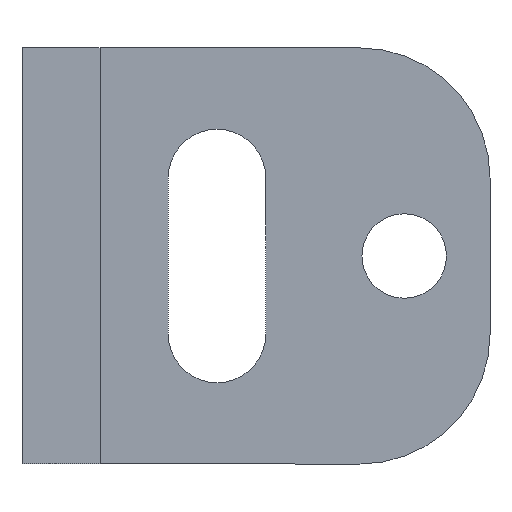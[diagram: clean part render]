
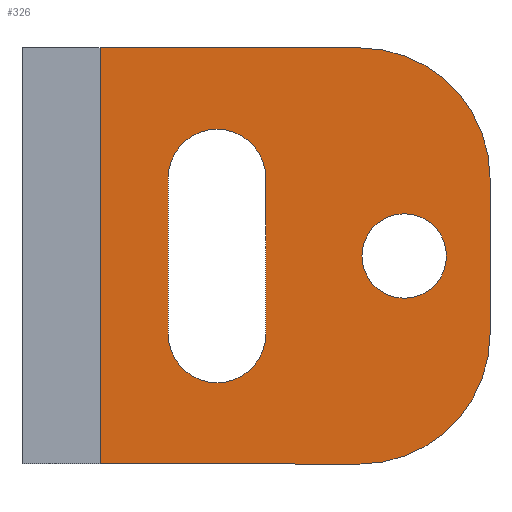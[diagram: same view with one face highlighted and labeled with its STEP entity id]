
A CAD part, left-side view. The second image highlights one B-rep face of the part: STEP entity #326.
In plain terms, the highlighted planar face has unit normal (-1, 0, 0).
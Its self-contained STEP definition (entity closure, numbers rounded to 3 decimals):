
#5 = CIRCLE ( 'NONE', #777, 10. ) ;
#41 = CIRCLE ( 'NONE', #962, 3.25 ) ;
#50 = CARTESIAN_POINT ( 'NONE',  ( -17., 0., -32. ) ) ;
#54 = DIRECTION ( 'NONE',  ( 0., 0., -1. ) ) ;
#58 = CARTESIAN_POINT ( 'NONE',  ( -17., -20., 0. ) ) ;
#71 = EDGE_CURVE ( 'NONE', #982, #602, #1298, .T. ) ;
#72 = DIRECTION ( 'NONE',  ( 0., 0., 1. ) ) ;
#92 = EDGE_CURVE ( 'NONE', #1504, #110, #212, .T. ) ;
#100 = EDGE_CURVE ( 'NONE', #110, #917, #343, .T. ) ;
#102 = CARTESIAN_POINT ( 'NONE',  ( -17., -23.4, -16. ) ) ;
#110 = VERTEX_POINT ( 'NONE', #397 ) ;
#113 = DIRECTION ( 'NONE',  ( 0., 0., 1. ) ) ;
#154 = VECTOR ( 'NONE', #1113, 1000. ) ;
#173 = CARTESIAN_POINT ( 'NONE',  ( -17., -30., -22. ) ) ;
#178 = DIRECTION ( 'NONE',  ( -1., 0., 0. ) ) ;
#182 = DIRECTION ( 'NONE',  ( 0., -1., 0. ) ) ;
#188 = FACE_BOUND ( 'NONE', #755, .T. ) ;
#193 = CARTESIAN_POINT ( 'NONE',  ( -17., -20., -22. ) ) ;
#194 = VERTEX_POINT ( 'NONE', #1364 ) ;
#207 = ORIENTED_EDGE ( 'NONE', *, *, #71, .F. ) ;
#212 = LINE ( 'NONE', #731, #1017 ) ;
#214 = EDGE_CURVE ( 'NONE', #838, #1055, #412, .T. ) ;
#271 = CARTESIAN_POINT ( 'NONE',  ( -17., -20., -32. ) ) ;
#292 = DIRECTION ( 'NONE',  ( -1., 0., 0. ) ) ;
#326 = ADVANCED_FACE ( 'NONE', ( #188, #1424, #1362 ), #1026, .T. ) ;
#343 = CIRCLE ( 'NONE', #950, 3.75 ) ;
#349 = CARTESIAN_POINT ( 'NONE',  ( -17., 0., -32. ) ) ;
#361 = CARTESIAN_POINT ( 'NONE',  ( -17., -20., -10. ) ) ;
#379 = ORIENTED_EDGE ( 'NONE', *, *, #100, .F. ) ;
#397 = CARTESIAN_POINT ( 'NONE',  ( -17., -5.25, -22. ) ) ;
#409 = VECTOR ( 'NONE', #901, 1000. ) ;
#412 = LINE ( 'NONE', #648, #1255 ) ;
#436 = ORIENTED_EDGE ( 'NONE', *, *, #1261, .T. ) ;
#461 = EDGE_CURVE ( 'NONE', #1003, #659, #41, .T. ) ;
#482 = DIRECTION ( 'NONE',  ( -1., 0., 0. ) ) ;
#487 = ORIENTED_EDGE ( 'NONE', *, *, #1497, .T. ) ;
#491 = CARTESIAN_POINT ( 'NONE',  ( -17., -12.75, -10. ) ) ;
#495 = CARTESIAN_POINT ( 'NONE',  ( -17., -12.75, -22. ) ) ;
#536 = ORIENTED_EDGE ( 'NONE', *, *, #537, .F. ) ;
#537 = EDGE_CURVE ( 'NONE', #602, #1504, #545, .T. ) ;
#545 = CIRCLE ( 'NONE', #1194, 3.75 ) ;
#586 = CIRCLE ( 'NONE', #1448, 3.75 ) ;
#602 = VERTEX_POINT ( 'NONE', #491 ) ;
#604 = LINE ( 'NONE', #58, #409 ) ;
#614 = ORIENTED_EDGE ( 'NONE', *, *, #991, .T. ) ;
#639 = EDGE_CURVE ( 'NONE', #917, #982, #586, .T. ) ;
#648 = CARTESIAN_POINT ( 'NONE',  ( -17., 0., 0. ) ) ;
#659 = VERTEX_POINT ( 'NONE', #1228 ) ;
#691 = VERTEX_POINT ( 'NONE', #1099 ) ;
#708 = AXIS2_PLACEMENT_3D ( 'NONE', #193, #1035, #1149 ) ;
#713 = DIRECTION ( 'NONE',  ( -1., 0., 0. ) ) ;
#731 = CARTESIAN_POINT ( 'NONE',  ( -17., -5.25, -22. ) ) ;
#751 = VERTEX_POINT ( 'NONE', #271 ) ;
#755 = EDGE_LOOP ( 'NONE', ( #775, #1297 ) ) ;
#775 = ORIENTED_EDGE ( 'NONE', *, *, #461, .F. ) ;
#777 = AXIS2_PLACEMENT_3D ( 'NONE', #1041, #1140, #1386 ) ;
#786 = CARTESIAN_POINT ( 'NONE',  ( -17., -9., -25.75 ) ) ;
#796 = CARTESIAN_POINT ( 'NONE',  ( -17., -23.4, -19.25 ) ) ;
#830 = ORIENTED_EDGE ( 'NONE', *, *, #1295, .T. ) ;
#833 = EDGE_CURVE ( 'NONE', #659, #1003, #1383, .T. ) ;
#838 = VERTEX_POINT ( 'NONE', #1080 ) ;
#852 = ORIENTED_EDGE ( 'NONE', *, *, #1464, .T. ) ;
#881 = VECTOR ( 'NONE', #182, 1000. ) ;
#892 = CARTESIAN_POINT ( 'NONE',  ( -17., -5.25, -10. ) ) ;
#898 = DIRECTION ( 'NONE',  ( 0., 0., -1. ) ) ;
#901 = DIRECTION ( 'NONE',  ( 0., 1., 0. ) ) ;
#917 = VERTEX_POINT ( 'NONE', #786 ) ;
#948 = DIRECTION ( 'NONE',  ( -1., 0., 0. ) ) ;
#950 = AXIS2_PLACEMENT_3D ( 'NONE', #1135, #178, #72 ) ;
#962 = AXIS2_PLACEMENT_3D ( 'NONE', #102, #948, #1427 ) ;
#982 = VERTEX_POINT ( 'NONE', #1499 ) ;
#991 = EDGE_CURVE ( 'NONE', #751, #1305, #5, .T. ) ;
#1003 = VERTEX_POINT ( 'NONE', #796 ) ;
#1014 = DIRECTION ( 'NONE',  ( 0., 0., 1. ) ) ;
#1017 = VECTOR ( 'NONE', #54, 1000. ) ;
#1019 = CARTESIAN_POINT ( 'NONE',  ( -17., -30., -22. ) ) ;
#1026 = PLANE ( 'NONE',  #708 ) ;
#1031 = EDGE_LOOP ( 'NONE', ( #536, #207, #1371, #379, #1413 ) ) ;
#1035 = DIRECTION ( 'NONE',  ( -1., 0., 0. ) ) ;
#1041 = CARTESIAN_POINT ( 'NONE',  ( -17., -20., -22. ) ) ;
#1055 = VERTEX_POINT ( 'NONE', #349 ) ;
#1063 = ORIENTED_EDGE ( 'NONE', *, *, #214, .T. ) ;
#1080 = CARTESIAN_POINT ( 'NONE',  ( -17., 0., 0. ) ) ;
#1099 = CARTESIAN_POINT ( 'NONE',  ( -17., -20., 0. ) ) ;
#1107 = DIRECTION ( 'NONE',  ( 0., 0., 1. ) ) ;
#1112 = CARTESIAN_POINT ( 'NONE',  ( -17., -9., -22. ) ) ;
#1113 = DIRECTION ( 'NONE',  ( 0., 0., 1. ) ) ;
#1115 = DIRECTION ( 'NONE',  ( 0., 0., 1. ) ) ;
#1127 = VECTOR ( 'NONE', #1115, 1000. ) ;
#1135 = CARTESIAN_POINT ( 'NONE',  ( -17., -9., -22. ) ) ;
#1140 = DIRECTION ( 'NONE',  ( -1., 0., 0. ) ) ;
#1149 = DIRECTION ( 'NONE',  ( 0., 0., 1. ) ) ;
#1156 = AXIS2_PLACEMENT_3D ( 'NONE', #361, #482, #1320 ) ;
#1189 = CARTESIAN_POINT ( 'NONE',  ( -17., -9., -10. ) ) ;
#1194 = AXIS2_PLACEMENT_3D ( 'NONE', #1189, #713, #113 ) ;
#1202 = LINE ( 'NONE', #50, #881 ) ;
#1228 = CARTESIAN_POINT ( 'NONE',  ( -17., -23.4, -12.75 ) ) ;
#1234 = DIRECTION ( 'NONE',  ( -1., 0., 0. ) ) ;
#1248 = CARTESIAN_POINT ( 'NONE',  ( -17., -23.4, -16. ) ) ;
#1255 = VECTOR ( 'NONE', #898, 1000. ) ;
#1261 = EDGE_CURVE ( 'NONE', #1055, #751, #1202, .T. ) ;
#1282 = AXIS2_PLACEMENT_3D ( 'NONE', #1248, #292, #1014 ) ;
#1295 = EDGE_CURVE ( 'NONE', #691, #838, #604, .T. ) ;
#1297 = ORIENTED_EDGE ( 'NONE', *, *, #833, .F. ) ;
#1298 = LINE ( 'NONE', #495, #1127 ) ;
#1305 = VERTEX_POINT ( 'NONE', #173 ) ;
#1320 = DIRECTION ( 'NONE',  ( 0., 0., 1. ) ) ;
#1362 = FACE_OUTER_BOUND ( 'NONE', #1433, .T. ) ;
#1364 = CARTESIAN_POINT ( 'NONE',  ( -17., -30., -10. ) ) ;
#1371 = ORIENTED_EDGE ( 'NONE', *, *, #639, .F. ) ;
#1383 = CIRCLE ( 'NONE', #1282, 3.25 ) ;
#1386 = DIRECTION ( 'NONE',  ( 0., 0., 1. ) ) ;
#1413 = ORIENTED_EDGE ( 'NONE', *, *, #92, .F. ) ;
#1424 = FACE_BOUND ( 'NONE', #1031, .T. ) ;
#1427 = DIRECTION ( 'NONE',  ( 0., 0., 1. ) ) ;
#1433 = EDGE_LOOP ( 'NONE', ( #1063, #436, #614, #487, #852, #830 ) ) ;
#1448 = AXIS2_PLACEMENT_3D ( 'NONE', #1112, #1234, #1107 ) ;
#1464 = EDGE_CURVE ( 'NONE', #194, #691, #1509, .T. ) ;
#1492 = LINE ( 'NONE', #1019, #154 ) ;
#1497 = EDGE_CURVE ( 'NONE', #1305, #194, #1492, .T. ) ;
#1499 = CARTESIAN_POINT ( 'NONE',  ( -17., -12.75, -22. ) ) ;
#1504 = VERTEX_POINT ( 'NONE', #892 ) ;
#1509 = CIRCLE ( 'NONE', #1156, 10. ) ;
